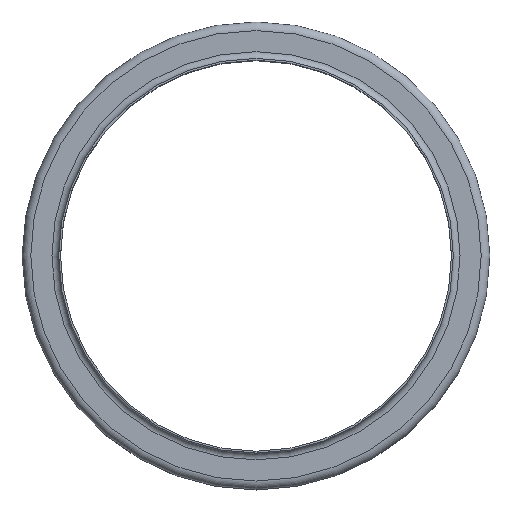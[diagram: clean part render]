
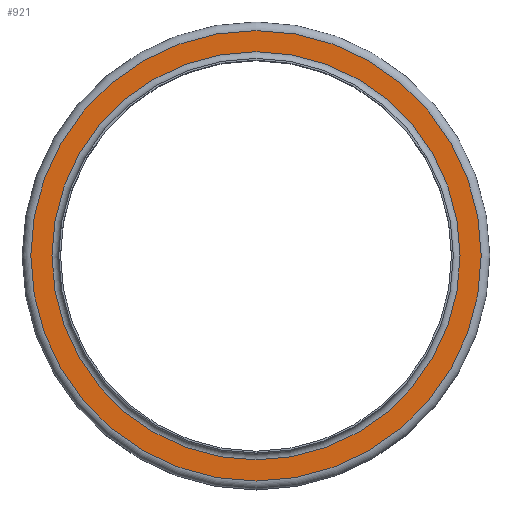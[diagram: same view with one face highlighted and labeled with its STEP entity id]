
A CAD part, top view. The second image highlights one B-rep face of the part: STEP entity #921.
In plain terms, the highlighted planar face has unit normal (0, 0, 1).
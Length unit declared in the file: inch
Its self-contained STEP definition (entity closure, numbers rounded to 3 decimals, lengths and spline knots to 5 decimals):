
#98=FACE_BOUND('',#272,.T.);
#165=FACE_OUTER_BOUND('',#271,.T.);
#271=EDGE_LOOP('',(#772));
#272=EDGE_LOOP('',(#773));
#385=CIRCLE('',#1110,6.655);
#386=CIRCLE('',#1112,7.345);
#466=VERTEX_POINT('',#1734);
#467=VERTEX_POINT('',#1738);
#571=EDGE_CURVE('',#466,#466,#385,.T.);
#572=EDGE_CURVE('',#467,#467,#386,.T.);
#772=ORIENTED_EDGE('',*,*,#572,.F.);
#773=ORIENTED_EDGE('',*,*,#571,.T.);
#854=PLANE('',#1111);
#921=ADVANCED_FACE('',(#165,#98),#854,.T.);
#1110=AXIS2_PLACEMENT_3D('',#1736,#1446,#1447);
#1111=AXIS2_PLACEMENT_3D('',#1737,#1448,#1449);
#1112=AXIS2_PLACEMENT_3D('',#1739,#1450,#1451);
#1446=DIRECTION('center_axis',(0.,0.,-1.));
#1447=DIRECTION('ref_axis',(1.,0.,0.));
#1448=DIRECTION('center_axis',(0.,0.,1.));
#1449=DIRECTION('ref_axis',(1.,0.,0.));
#1450=DIRECTION('center_axis',(0.,0.,-1.));
#1451=DIRECTION('ref_axis',(1.,0.,0.));
#1734=CARTESIAN_POINT('',(6.655,0.,-0.22));
#1736=CARTESIAN_POINT('Origin',(0.,0.,-0.22));
#1737=CARTESIAN_POINT('Origin',(0.,7.345,-0.22));
#1738=CARTESIAN_POINT('',(7.345,0.,-0.22));
#1739=CARTESIAN_POINT('Origin',(0.,0.,-0.22));
